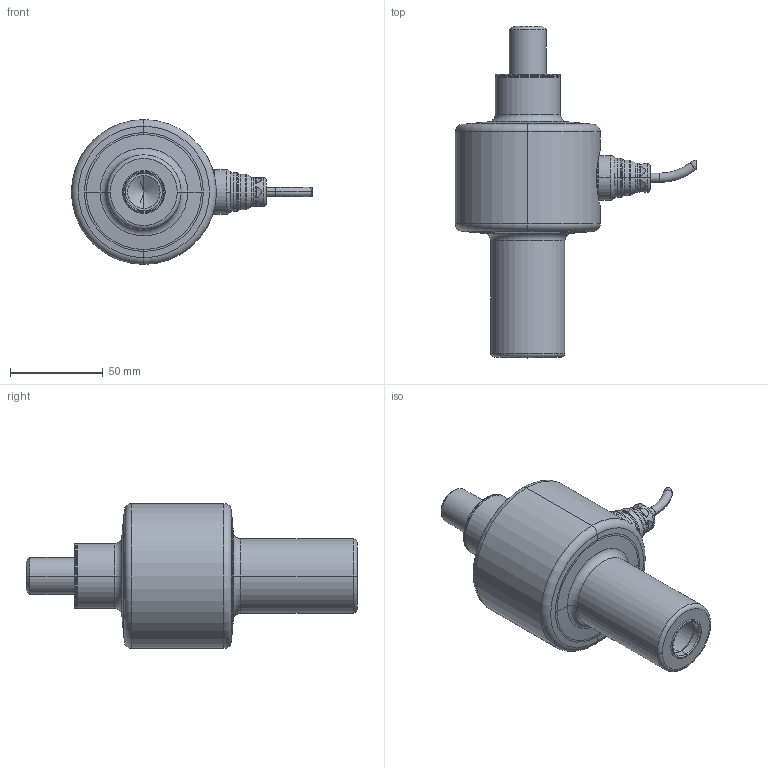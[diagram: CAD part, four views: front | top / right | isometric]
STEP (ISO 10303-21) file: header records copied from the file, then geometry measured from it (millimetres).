
FILE_DESCRIPTION((''),'1');
FILE_NAME('LFLA_3A_M20_5000_kg.step','2024-07-02T08:31:55',(''),(''),'','','');
FILE_SCHEMA(('AUTOMOTIVE_DESIGN { 1 0 10303 214 1 1 1 1 }'));
Length unit declared in the file: metre
Products named in the file (10): LFLA part 01; LFLA body 01; LFLA cable 01; LFLA cable gland 01; LFLA cable gland 02; LFLA part 03; LFLA connector 01; LFLA O-ring 01; LFLA O-ring 02; LFLA 3A_M20_5000_kg
Assembly tree (9 placements, depth 3):
  LFLA 3A_M20_5000_kg
    LFLA part 01
      LFLA body 01
      LFLA cable 01
      LFLA cable gland 01
      LFLA cable gland 02
      LFLA part 03
      LFLA connector 01
      LFLA O-ring 01
      LFLA O-ring 02
Bounding box: 129.85 x 178.75 x 78 mm (x, y, z)
Volume: 396016.2 mm3; surface area: 71332.9 mm2
Topology: 8 solids, 8 shells, 176 faces, 346 edges, 201 vertices
Faces by surface type: cylinder 72, torus 54, plane 32, cone 18
Entity records: 5184 total; most frequent: CARTESIAN_POINT 1095, DIRECTION 952, ORIENTED_EDGE 688, AXIS2_PLACEMENT_3D 431, EDGE_CURVE 344, CIRCLE 238, EDGE_LOOP 205, VERTEX_POINT 201
